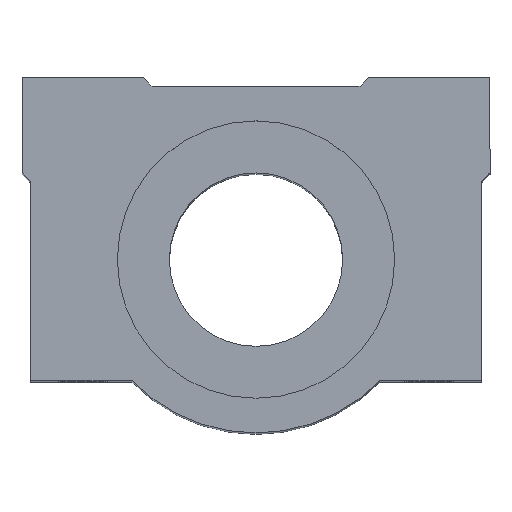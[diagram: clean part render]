
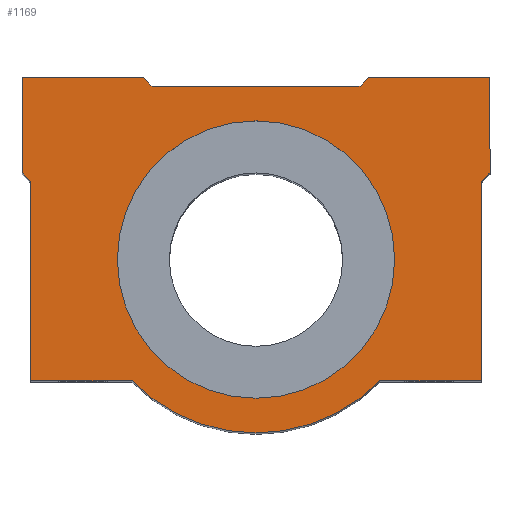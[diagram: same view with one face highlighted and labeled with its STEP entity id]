
A CAD part, top view. The second image highlights one B-rep face of the part: STEP entity #1169.
In plain terms, the highlighted planar face has unit normal (0, 0, 1).
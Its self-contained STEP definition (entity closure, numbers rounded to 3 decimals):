
#91=CARTESIAN_POINT('',(-16.709,4.198,98.0));
#92=VERTEX_POINT('',#91);
#101=CARTESIAN_POINT('',(15.291,4.198,98.0));
#102=VERTEX_POINT('',#101);
#103=CARTESIAN_POINT('',(-0.709,4.198,98.0));
#104=DIRECTION('',(0.0,0.0,-1.0));
#105=DIRECTION('',(-1.0,0.0,0.0));
#106=AXIS2_PLACEMENT_3D('',#103,#104,#105);
#107=CIRCLE('',#106,16.0);
#108=EDGE_CURVE('',#102,#92,#107,.T.);
#640=CARTESIAN_POINT('',(-0.709,4.198,98.0));
#641=DIRECTION('',(0.0,0.0,-1.0));
#642=DIRECTION('',(-1.0,0.0,0.0));
#643=AXIS2_PLACEMENT_3D('',#640,#641,#642);
#644=CIRCLE('',#643,16.0);
#645=EDGE_CURVE('',#92,#102,#644,.T.);
#780=CARTESIAN_POINT('',(26.291,14.198,98.0));
#781=VERTEX_POINT('',#780);
#782=CARTESIAN_POINT('',(25.291,13.198,98.0));
#783=VERTEX_POINT('',#782);
#784=CARTESIAN_POINT('',(26.291,14.198,98.0));
#785=DIRECTION('',(-0.707,-0.707,0.0));
#786=VECTOR('',#785,1.414);
#787=LINE('',#784,#786);
#788=EDGE_CURVE('',#781,#783,#787,.T.);
#811=CARTESIAN_POINT('',(25.291,-9.802,98.0));
#812=VERTEX_POINT('',#811);
#813=CARTESIAN_POINT('',(25.291,13.198,98.0));
#814=DIRECTION('',(0.0,-1.0,0.0));
#815=VECTOR('',#814,23.);
#816=LINE('',#813,#815);
#817=EDGE_CURVE('',#783,#812,#816,.T.);
#835=CARTESIAN_POINT('',(13.574,-9.802,98.0));
#836=VERTEX_POINT('',#835);
#837=CARTESIAN_POINT('',(25.291,-9.802,98.0));
#838=DIRECTION('',(-1.0,0.0,0.0));
#839=VECTOR('',#838,11.717);
#840=LINE('',#837,#839);
#841=EDGE_CURVE('',#812,#836,#840,.T.);
#867=CARTESIAN_POINT('',(-14.992,-9.802,98.0));
#868=VERTEX_POINT('',#867);
#869=CARTESIAN_POINT('',(-0.709,4.198,98.0));
#870=DIRECTION('',(0.0,0.0,-1.0));
#871=DIRECTION('',(0.714,0.7,0.0));
#872=AXIS2_PLACEMENT_3D('',#869,#870,#871);
#873=CIRCLE('',#872,20.0);
#874=EDGE_CURVE('',#836,#868,#873,.T.);
#892=CARTESIAN_POINT('',(-26.709,-9.802,98.0));
#893=VERTEX_POINT('',#892);
#894=CARTESIAN_POINT('',(-14.992,-9.802,98.0));
#895=DIRECTION('',(-1.0,0.0,0.0));
#896=VECTOR('',#895,11.717);
#897=LINE('',#894,#896);
#898=EDGE_CURVE('',#868,#893,#897,.T.);
#924=CARTESIAN_POINT('',(-26.709,13.198,98.0));
#925=VERTEX_POINT('',#924);
#926=CARTESIAN_POINT('',(-26.709,-9.802,98.0));
#927=DIRECTION('',(0.0,1.0,0.0));
#928=VECTOR('',#927,23.);
#929=LINE('',#926,#928);
#930=EDGE_CURVE('',#893,#925,#929,.T.);
#948=CARTESIAN_POINT('',(-27.709,14.198,98.0));
#949=VERTEX_POINT('',#948);
#950=CARTESIAN_POINT('',(-26.709,13.198,98.0));
#951=DIRECTION('',(-0.707,0.707,0.0));
#952=VECTOR('',#951,1.414);
#953=LINE('',#950,#952);
#954=EDGE_CURVE('',#925,#949,#953,.T.);
#972=CARTESIAN_POINT('',(-27.709,25.198,98.0));
#973=VERTEX_POINT('',#972);
#974=CARTESIAN_POINT('',(-27.709,14.198,98.0));
#975=DIRECTION('',(0.0,1.0,0.0));
#976=VECTOR('',#975,11.);
#977=LINE('',#974,#976);
#978=EDGE_CURVE('',#949,#973,#977,.T.);
#996=CARTESIAN_POINT('',(-13.709,25.198,98.0));
#997=VERTEX_POINT('',#996);
#998=CARTESIAN_POINT('',(-27.709,25.198,98.0));
#999=DIRECTION('',(1.0,0.0,0.0));
#1000=VECTOR('',#999,14.);
#1001=LINE('',#998,#1000);
#1002=EDGE_CURVE('',#973,#997,#1001,.T.);
#1028=CARTESIAN_POINT('',(-12.709,24.198,98.0));
#1029=VERTEX_POINT('',#1028);
#1030=CARTESIAN_POINT('',(-13.709,25.198,98.0));
#1031=DIRECTION('',(0.707,-0.707,0.0));
#1032=VECTOR('',#1031,1.414);
#1033=LINE('',#1030,#1032);
#1034=EDGE_CURVE('',#997,#1029,#1033,.T.);
#1052=CARTESIAN_POINT('',(11.291,24.198,98.0));
#1053=VERTEX_POINT('',#1052);
#1054=CARTESIAN_POINT('',(-12.709,24.198,98.0));
#1055=DIRECTION('',(1.0,0.0,0.0));
#1056=VECTOR('',#1055,24.);
#1057=LINE('',#1054,#1056);
#1058=EDGE_CURVE('',#1029,#1053,#1057,.T.);
#1076=CARTESIAN_POINT('',(12.291,25.198,98.0));
#1077=VERTEX_POINT('',#1076);
#1078=CARTESIAN_POINT('',(11.291,24.198,98.0));
#1079=DIRECTION('',(0.707,0.707,0.0));
#1080=VECTOR('',#1079,1.414);
#1081=LINE('',#1078,#1080);
#1082=EDGE_CURVE('',#1053,#1077,#1081,.T.);
#1100=CARTESIAN_POINT('',(26.291,25.198,98.0));
#1101=VERTEX_POINT('',#1100);
#1102=CARTESIAN_POINT('',(12.291,25.198,98.0));
#1103=DIRECTION('',(1.0,0.0,0.0));
#1104=VECTOR('',#1103,14.);
#1105=LINE('',#1102,#1104);
#1106=EDGE_CURVE('',#1077,#1101,#1105,.T.);
#1132=CARTESIAN_POINT('',(26.291,25.198,98.0));
#1133=DIRECTION('',(0.0,-1.0,0.0));
#1134=VECTOR('',#1133,11.);
#1135=LINE('',#1132,#1134);
#1136=EDGE_CURVE('',#1101,#781,#1135,.T.);
#1144=CARTESIAN_POINT('',(-0.709,6.918,98.0));
#1145=DIRECTION('',(0.0,0.0,1.0));
#1146=DIRECTION('',(1.0,0.0,0.0));
#1147=AXIS2_PLACEMENT_3D('',#1144,#1145,#1146);
#1148=PLANE('',#1147);
#1149=ORIENTED_EDGE('',*,*,#788,.F.);
#1150=ORIENTED_EDGE('',*,*,#1136,.F.);
#1151=ORIENTED_EDGE('',*,*,#1106,.F.);
#1152=ORIENTED_EDGE('',*,*,#1082,.F.);
#1153=ORIENTED_EDGE('',*,*,#1058,.F.);
#1154=ORIENTED_EDGE('',*,*,#1034,.F.);
#1155=ORIENTED_EDGE('',*,*,#1002,.F.);
#1156=ORIENTED_EDGE('',*,*,#978,.F.);
#1157=ORIENTED_EDGE('',*,*,#954,.F.);
#1158=ORIENTED_EDGE('',*,*,#930,.F.);
#1159=ORIENTED_EDGE('',*,*,#898,.F.);
#1160=ORIENTED_EDGE('',*,*,#874,.F.);
#1161=ORIENTED_EDGE('',*,*,#841,.F.);
#1162=ORIENTED_EDGE('',*,*,#817,.F.);
#1163=EDGE_LOOP('',(#1149,#1150,#1151,#1152,#1153,#1154,#1155,#1156,#1157,#1158,#1159,#1160,#1161,#1162));
#1164=FACE_OUTER_BOUND('',#1163,.T.);
#1165=ORIENTED_EDGE('',*,*,#108,.T.);
#1166=ORIENTED_EDGE('',*,*,#645,.T.);
#1167=EDGE_LOOP('',(#1165,#1166));
#1168=FACE_BOUND('',#1167,.T.);
#1169=ADVANCED_FACE('',(#1164,#1168),#1148,.T.);
